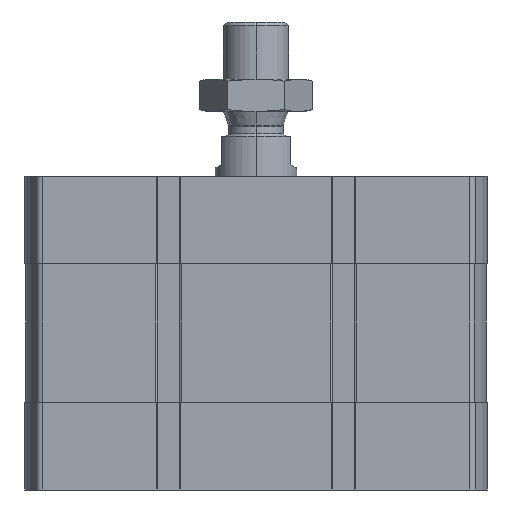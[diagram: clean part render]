
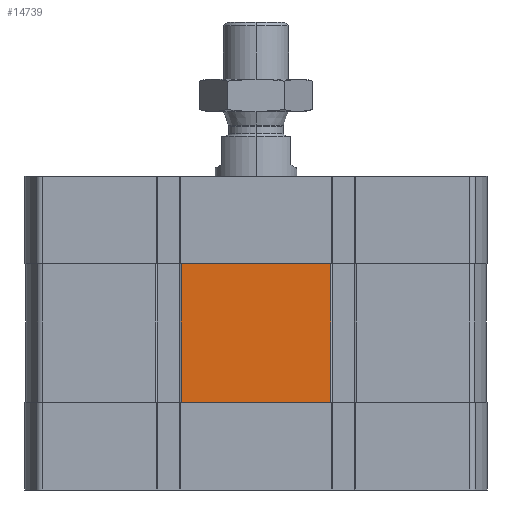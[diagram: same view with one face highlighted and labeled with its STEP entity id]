
A CAD part, left-side view. The second image highlights one B-rep face of the part: STEP entity #14739.
In plain terms, the highlighted planar face has unit normal (-1, 0, 0).
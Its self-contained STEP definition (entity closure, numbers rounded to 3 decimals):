
#1048 = CARTESIAN_POINT ( 'NONE',  ( -56.5, 18.345, -21.5 ) ) ;
#1111 = FACE_OUTER_BOUND ( 'NONE', #1304, .T. ) ;
#1304 = EDGE_LOOP ( 'NONE', ( #2341, #16447, #8127, #2962 ) ) ;
#1504 = VERTEX_POINT ( 'NONE', #5801 ) ;
#1793 = LINE ( 'NONE', #11551, #13133 ) ;
#1841 = VERTEX_POINT ( 'NONE', #3638 ) ;
#2222 = CARTESIAN_POINT ( 'NONE',  ( -56.5, -18.345, -55.5 ) ) ;
#2341 = ORIENTED_EDGE ( 'NONE', *, *, #18367, .F. ) ;
#2869 = DIRECTION ( 'NONE',  ( 0., -1., 0. ) ) ;
#2895 = DIRECTION ( 'NONE',  ( 0., 0., 1. ) ) ;
#2962 = ORIENTED_EDGE ( 'NONE', *, *, #9999, .T. ) ;
#3638 = CARTESIAN_POINT ( 'NONE',  ( -56.5, 18.345, -55.5 ) ) ;
#3855 = AXIS2_PLACEMENT_3D ( 'NONE', #10454, #9145, #5706 ) ;
#5434 = EDGE_CURVE ( 'NONE', #1841, #18397, #1793, .T. ) ;
#5706 = DIRECTION ( 'NONE',  ( 0., 0., 1. ) ) ;
#5801 = CARTESIAN_POINT ( 'NONE',  ( -56.5, -18.345, -21.5 ) ) ;
#6723 = VERTEX_POINT ( 'NONE', #2222 ) ;
#7542 = EDGE_CURVE ( 'NONE', #1841, #6723, #11461, .T. ) ;
#7586 = LINE ( 'NONE', #1048, #12735 ) ;
#7916 = CARTESIAN_POINT ( 'NONE',  ( -56.5, 18.345, -55.5 ) ) ;
#8127 = ORIENTED_EDGE ( 'NONE', *, *, #7542, .T. ) ;
#9145 = DIRECTION ( 'NONE',  ( -1., 0., 0. ) ) ;
#9999 = EDGE_CURVE ( 'NONE', #6723, #1504, #10937, .T. ) ;
#10454 = CARTESIAN_POINT ( 'NONE',  ( -56.5, 18.345, -55.5 ) ) ;
#10711 = CARTESIAN_POINT ( 'NONE',  ( -56.5, 18.345, -21.5 ) ) ;
#10937 = LINE ( 'NONE', #15784, #10991 ) ;
#10991 = VECTOR ( 'NONE', #2895, 1000. ) ;
#11461 = LINE ( 'NONE', #7916, #17073 ) ;
#11551 = CARTESIAN_POINT ( 'NONE',  ( -56.5, 18.345, -55.5 ) ) ;
#12735 = VECTOR ( 'NONE', #2869, 1000. ) ;
#13133 = VECTOR ( 'NONE', #16615, 1000. ) ;
#14739 = ADVANCED_FACE ( 'NONE', ( #1111 ), #19126, .T. ) ;
#14794 = DIRECTION ( 'NONE',  ( 0., -1., 0. ) ) ;
#15784 = CARTESIAN_POINT ( 'NONE',  ( -56.5, -18.345, -55.5 ) ) ;
#16447 = ORIENTED_EDGE ( 'NONE', *, *, #5434, .F. ) ;
#16615 = DIRECTION ( 'NONE',  ( 0., 0., 1. ) ) ;
#17073 = VECTOR ( 'NONE', #14794, 1000. ) ;
#18367 = EDGE_CURVE ( 'NONE', #18397, #1504, #7586, .T. ) ;
#18397 = VERTEX_POINT ( 'NONE', #10711 ) ;
#19126 = PLANE ( 'NONE',  #3855 ) ;
